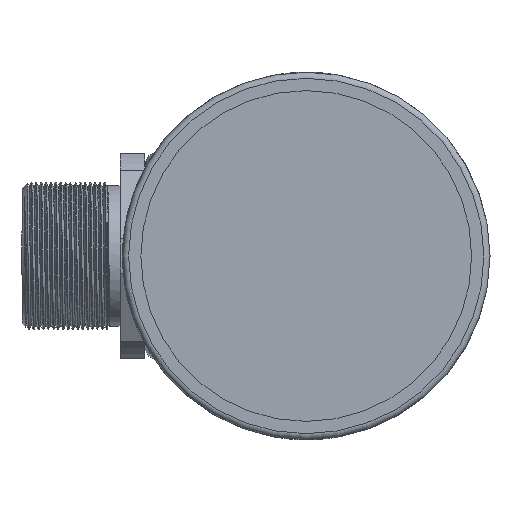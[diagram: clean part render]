
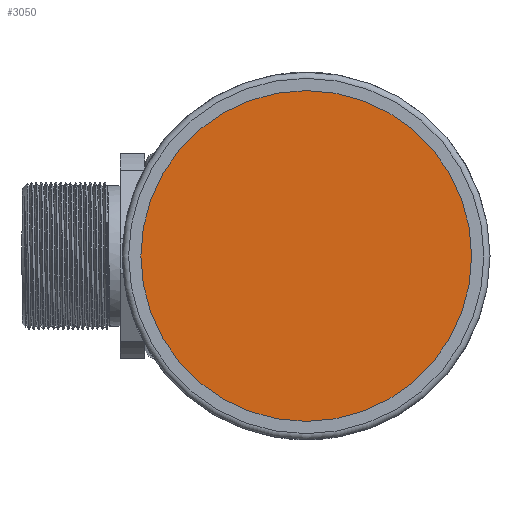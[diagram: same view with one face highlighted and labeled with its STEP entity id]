
A CAD part, left-side view. The second image highlights one B-rep face of the part: STEP entity #3050.
In plain terms, the highlighted planar face has unit normal (-1, 0, 0).
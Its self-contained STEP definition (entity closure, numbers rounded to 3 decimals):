
#1014=PLANE('',#3235);
#1107=CIRCLE('',#3233,13.5);
#1208=EDGE_CURVE('',#2583,#2583,#1107,.T.);
#1599=ORIENTED_EDGE('',*,*,#1208,.T.);
#2352=EDGE_LOOP('',(#1599));
#2583=VERTEX_POINT('',#3527);
#2833=FACE_BOUND('',#2352,.T.);
#3050=ADVANCED_FACE('',(#2833),#1014,.F.);
#3233=AXIS2_PLACEMENT_3D('',#3526,#15116,#15117);
#3235=AXIS2_PLACEMENT_3D('',#3530,#15120,$);
#3526=CARTESIAN_POINT('',(1.,0.,0.));
#3527=CARTESIAN_POINT('',(1.,0.,-13.5));
#3530=CARTESIAN_POINT('',(1.,0.,0.));
#15116=DIRECTION('',(-1.,0.,0.));
#15117=DIRECTION('',(0.,0.,-13.5));
#15120=DIRECTION('',(1.,0.,0.));
